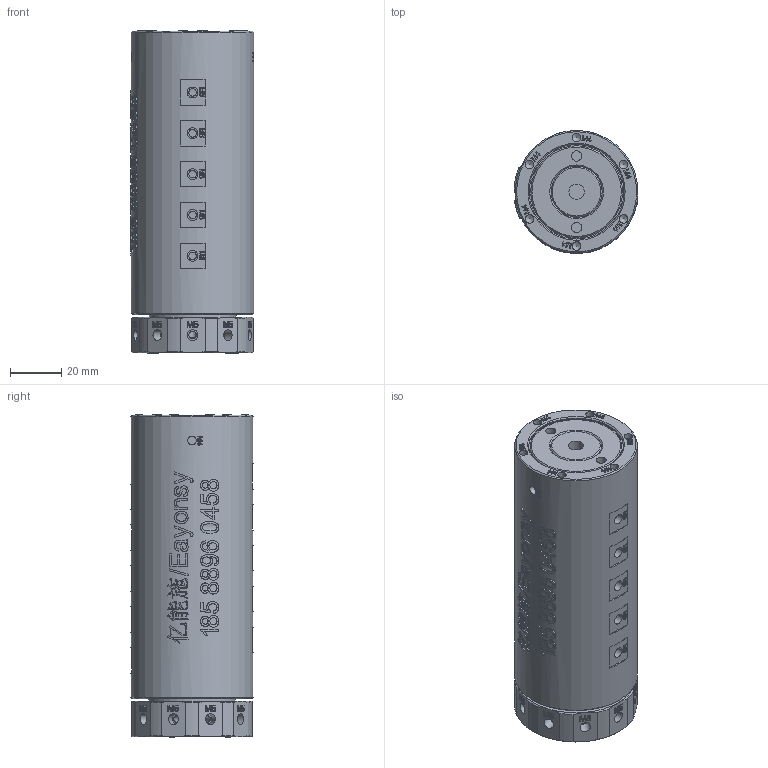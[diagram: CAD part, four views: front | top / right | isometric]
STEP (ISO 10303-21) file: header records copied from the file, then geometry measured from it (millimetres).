
FILE_DESCRIPTION(/* description */ (''),/* implementation_level */ '2;1');
FILE_NAME(/* name */ 'YQ10005-3D模型.stp',/* time_stamp */ '2025-09-05T13:59:03+08:00',/* author */ (''),/* organization */ (''),/* preprocessor_version */ 'ST-DEVELOPER v16.7',/* originating_system */ 'SIEMENS PLM Software NX 12.0',/* authorisation */ '');
FILE_SCHEMA (('AUTOMOTIVE_DESIGN { 1 0 10303 214 3 1 1 1 }'));
Products named in the file (1): AdmiFA3485D63p7y
Bounding box: 48.52 x 48 x 126.4 mm (x, y, z)
Volume: 221102.4 mm3; surface area: 31611.2 mm2
Topology: 1 solids, 1 shells, 2098 faces, 5769 edges, 3841 vertices
Faces by surface type: plane 1034, extrusion 814, cylinder 120, bspline 93, cone 37
Full cylindrical faces by diameter (mm): 3 x26, 3.4 x12, 4 x12, 4.2 x30, 6 x2, 34 x1, 37 x1, 42 x1, 48 x1
Entity records: 77420 total; most frequent: CARTESIAN_POINT 31912, ORIENTED_EDGE 11146, DIRECTION 5604, EDGE_CURVE 5573, B_SPLINE_CURVE_WITH_KNOTS 4386, VERTEX_POINT 3759, VECTOR 2410, EDGE_LOOP 2390
